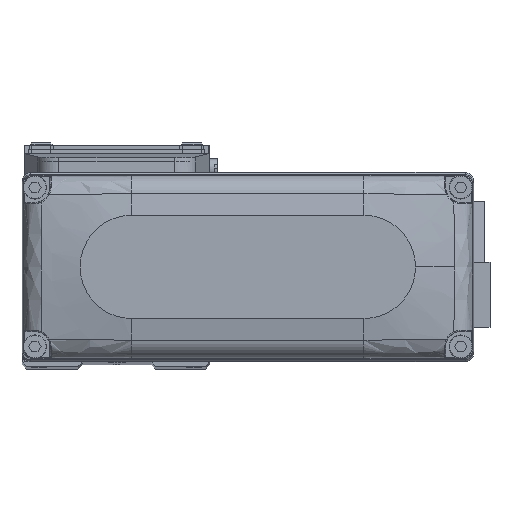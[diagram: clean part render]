
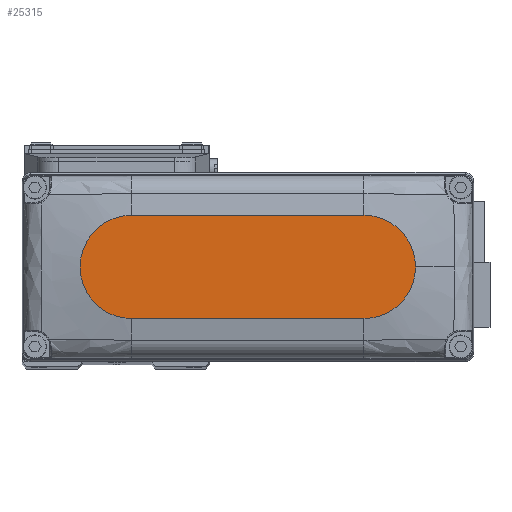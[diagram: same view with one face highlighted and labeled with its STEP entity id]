
A CAD part, top view. The second image highlights one B-rep face of the part: STEP entity #25315.
In plain terms, the highlighted planar face has unit normal (0, 0, 1).
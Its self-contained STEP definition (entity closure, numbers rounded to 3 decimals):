
#299 = CIRCLE ( 'NONE', #22694, 12. ) ;
#339 = VERTEX_POINT ( 'NONE', #16749 ) ;
#1144 = EDGE_CURVE ( 'NONE', #23245, #19828, #29612, .T. ) ;
#1713 = DIRECTION ( 'NONE',  ( 0., 0., 1. ) ) ;
#2189 = CARTESIAN_POINT ( 'NONE',  ( -27., 12., 25. ) ) ;
#2794 = CIRCLE ( 'NONE', #25173, 12. ) ;
#4853 = DIRECTION ( 'NONE',  ( 0., 0., 1. ) ) ;
#4879 = AXIS2_PLACEMENT_3D ( 'NONE', #12181, #24401, #36579 ) ;
#5809 = VERTEX_POINT ( 'NONE', #13314 ) ;
#7468 = CARTESIAN_POINT ( 'NONE',  ( -27., 0., 25. ) ) ;
#7826 = LINE ( 'NONE', #20043, #16609 ) ;
#9698 = EDGE_CURVE ( 'NONE', #38972, #339, #299, .T. ) ;
#9755 = ORIENTED_EDGE ( 'NONE', *, *, #1144, .T. ) ;
#12181 = CARTESIAN_POINT ( 'NONE',  ( 0., 0., 25. ) ) ;
#12694 = CARTESIAN_POINT ( 'NONE',  ( 27., 12., 25. ) ) ;
#13314 = CARTESIAN_POINT ( 'NONE',  ( -27., -12., 25. ) ) ;
#13923 = DIRECTION ( 'NONE',  ( 1., 0., 0. ) ) ;
#14402 = DIRECTION ( 'NONE',  ( -1., 0., 0. ) ) ;
#16188 = EDGE_CURVE ( 'NONE', #5809, #38972, #7826, .T. ) ;
#16494 = ORIENTED_EDGE ( 'NONE', *, *, #39511, .T. ) ;
#16609 = VECTOR ( 'NONE', #32247, 1000. ) ;
#16749 = CARTESIAN_POINT ( 'NONE',  ( 39., 0., 25. ) ) ;
#17051 = DIRECTION ( 'NONE',  ( 1., 0., 0. ) ) ;
#18639 = AXIS2_PLACEMENT_3D ( 'NONE', #29138, #1713, #13923 ) ;
#19677 = DIRECTION ( 'NONE',  ( 0., 0., 1. ) ) ;
#19828 = VERTEX_POINT ( 'NONE', #20096 ) ;
#20043 = CARTESIAN_POINT ( 'NONE',  ( -27., -12., 25. ) ) ;
#20096 = CARTESIAN_POINT ( 'NONE',  ( -27., 12., 25. ) ) ;
#22694 = AXIS2_PLACEMENT_3D ( 'NONE', #32252, #4853, #17051 ) ;
#22901 = ORIENTED_EDGE ( 'NONE', *, *, #16188, .T. ) ;
#23245 = VERTEX_POINT ( 'NONE', #12694 ) ;
#23373 = EDGE_CURVE ( 'NONE', #19828, #5809, #2794, .T. ) ;
#23802 = VECTOR ( 'NONE', #14402, 1000. ) ;
#24401 = DIRECTION ( 'NONE',  ( 0., 0., 1. ) ) ;
#25173 = AXIS2_PLACEMENT_3D ( 'NONE', #7468, #19677, #31885 ) ;
#25315 = ADVANCED_FACE ( 'NONE', ( #27398 ), #27809, .T. ) ;
#27398 = FACE_OUTER_BOUND ( 'NONE', #33596, .T. ) ;
#27809 = PLANE ( 'NONE',  #4879 ) ;
#29138 = CARTESIAN_POINT ( 'NONE',  ( 27., 0., 25. ) ) ;
#29612 = LINE ( 'NONE', #2189, #23802 ) ;
#31885 = DIRECTION ( 'NONE',  ( 1., 0., 0. ) ) ;
#32247 = DIRECTION ( 'NONE',  ( 1., 0., 0. ) ) ;
#32252 = CARTESIAN_POINT ( 'NONE',  ( 27., 0., 25. ) ) ;
#33596 = EDGE_LOOP ( 'NONE', ( #9755, #38666, #22901, #35925, #16494 ) ) ;
#34579 = CARTESIAN_POINT ( 'NONE',  ( 27., -12., 25. ) ) ;
#35884 = CIRCLE ( 'NONE', #18639, 12. ) ;
#35925 = ORIENTED_EDGE ( 'NONE', *, *, #9698, .T. ) ;
#36579 = DIRECTION ( 'NONE',  ( 1., 0., 0. ) ) ;
#38666 = ORIENTED_EDGE ( 'NONE', *, *, #23373, .T. ) ;
#38972 = VERTEX_POINT ( 'NONE', #34579 ) ;
#39511 = EDGE_CURVE ( 'NONE', #339, #23245, #35884, .T. ) ;
